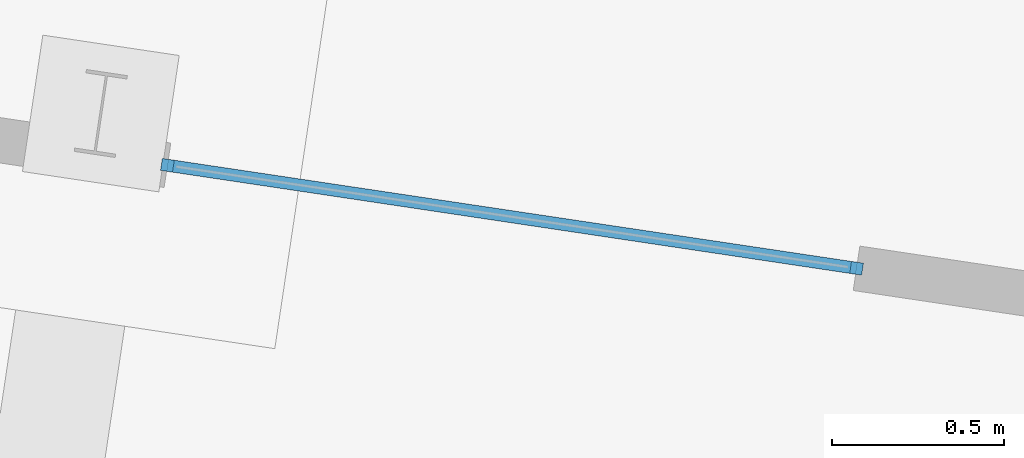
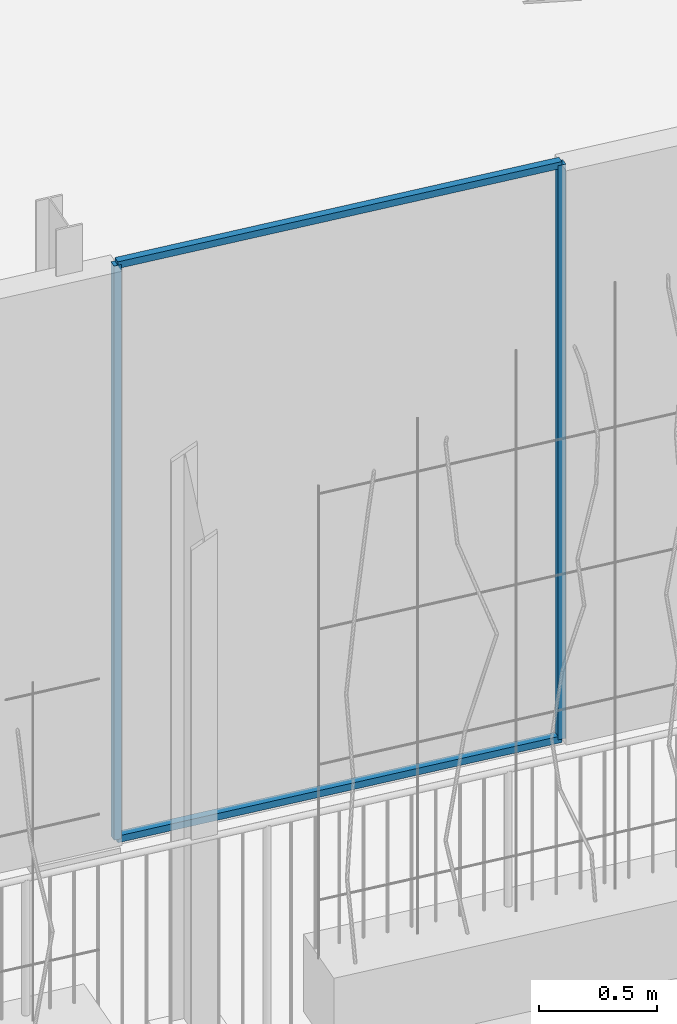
# One storey, part 93 of 142: 4 members.
"""IFC4 building model written with IfcOpenShell, lengths in metres."""

from ifc_helpers import new_model, si_unit, direction, frame, origin_with_axes, place, context, subcontext, project, spatial, rectangle, extrude, material, material_profile, profile_set, profile_usage, type_object, element, save


model = new_model("IFC4")

# Units and contexts
model_context = context("Model", 3, precision=1e-05, world=origin_with_axes(), true_north=direction((0.0, 1.0)))
body_context = subcontext(model_context, "Body", "Model", "MODEL_VIEW")
ifc_project = project(units=[si_unit("LENGTHUNIT", "METRE"), si_unit("AREAUNIT", "SQUARE_METRE"), si_unit("VOLUMEUNIT", "CUBIC_METRE")], contexts=[model_context])

# Site, building, storey
site_placement = place(None, origin_with_axes())
site = spatial("IfcSite", under=ifc_project, at=site_placement, Name="Lares · Rua das Mercês · artigo 4771")
building_placement = place(site_placement, frame((15.0, 9.7, 14.65), z_axis=(0.0, 0.0, 1.0), x_axis=(0.989015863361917, -0.147809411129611, 0.0)))
building = spatial("IfcBuilding", under=site, at=building_placement, Name="Casa Sobreposta")
storey_placement = place(building_placement, origin_with_axes())
storey = spatial("IfcBuildingStorey", under=building, at=storey_placement, Name="00 · Habitação e estacionamento", Elevation=14.65)

# Members
ifc_material = material(Name="Aço pintado / Stahl lackiert", Category="steel")
ifc_material_profile = material_profile(ifc_material, rectangle(XDim=0.035, YDim=0.035))
ifc_profile_set = profile_set([ifc_material_profile], Name="R0.035")
ifc_profile_usage_1 = profile_usage(ifc_profile_set)
member_type = type_object("IfcMemberType", Name="R0.035 / steel", PredefinedType="NOTDEFINED", material=ifc_profile_set)
member_1_placement = place(storey_placement, frame((20.2133333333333, 0.0, 0.0), z_axis=(0.0, 0.0, 1.0), x_axis=(1.0, 0.0, 0.0)))
element("IfcMember", 1, at=member_1_placement, inside=storey, type_object=member_type, material=ifc_profile_usage_1, Name="Folha de correr sul 10 · montante", context=body_context, shape_type="SweptSolid", body=[
    extrude(rectangle(XDim=0.035, YDim=0.035), origin_with_axes(), (0.0, 0.0, 1.0), 2.968),
])
ifc_profile_usage_2 = profile_usage(ifc_profile_set)
member_2_placement = place(storey_placement, frame((22.2346666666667, 0.0, 0.0), z_axis=(0.0, 0.0, 1.0), x_axis=(1.0, 0.0, 0.0)))
element("IfcMember", 2, at=member_2_placement, inside=storey, type_object=member_type, material=ifc_profile_usage_2, Name="Folha de correr sul 10 · montante", context=body_context, shape_type="SweptSolid", body=[
    extrude(rectangle(XDim=0.035, YDim=0.035), origin_with_axes(), (0.0, 0.0, 1.0), 2.968),
])
ifc_profile_usage_3 = profile_usage(ifc_profile_set)
member_3_placement = place(storey_placement, frame((20.2133333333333, 0.0, 0.0), z_axis=(1.0, 0.0, 0.0), x_axis=(0.0, -1.0, 0.0)))
element("IfcMember", 3, at=member_3_placement, inside=storey, type_object=member_type, material=ifc_profile_usage_3, Name="Folha de correr sul 10 · travessa", context=body_context, shape_type="SweptSolid", body=[
    extrude(rectangle(XDim=0.035, YDim=0.035), origin_with_axes(), (0.0, 0.0, 1.0), 2.02133333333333),
])
ifc_profile_usage_4 = profile_usage(ifc_profile_set)
member_4_placement = place(storey_placement, frame((20.2133333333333, 0.0, 2.968), z_axis=(1.0, 0.0, 0.0), x_axis=(0.0, -1.0, 0.0)))
element("IfcMember", 4, at=member_4_placement, inside=storey, type_object=member_type, material=ifc_profile_usage_4, Name="Folha de correr sul 10 · travessa", context=body_context, shape_type="SweptSolid", body=[
    extrude(rectangle(XDim=0.035, YDim=0.035), origin_with_axes(), (0.0, 0.0, 1.0), 2.02133333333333),
])

save(model, "model.ifc")
